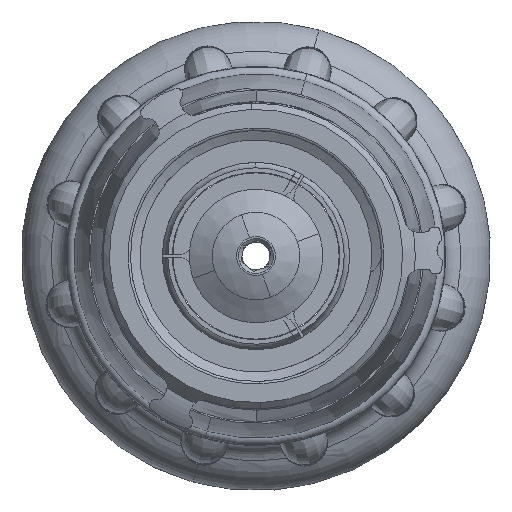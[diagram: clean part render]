
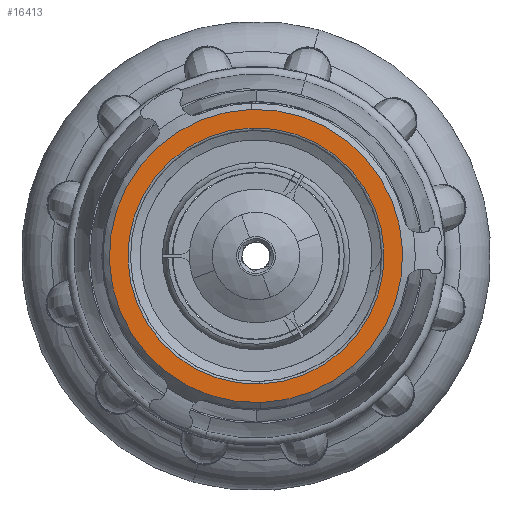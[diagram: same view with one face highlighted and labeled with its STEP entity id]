
A CAD part, left-side view. The second image highlights one B-rep face of the part: STEP entity #16413.
In plain terms, the highlighted planar face has unit normal (-1, 0, 0).
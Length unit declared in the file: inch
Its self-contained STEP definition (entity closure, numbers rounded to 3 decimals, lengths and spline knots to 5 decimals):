
#433 = CARTESIAN_POINT ( 'NONE',  ( -2.82858, -0.03728, 2.98571 ) ) ;
#574 = ORIENTED_EDGE ( 'NONE', *, *, #15111, .F. ) ;
#595 = CIRCLE ( 'NONE', #7601, 1.02565 ) ;
#1905 = DIRECTION ( 'NONE',  ( 1., 0., 0. ) ) ;
#2566 = CARTESIAN_POINT ( 'NONE',  ( -2.82858, -0.00547, 4.01087 ) ) ;
#2602 = EDGE_LOOP ( 'NONE', ( #25058, #19581 ) ) ;
#2611 = CARTESIAN_POINT ( 'NONE',  ( -2.82858, -0.03728, 2.98571 ) ) ;
#2845 = AXIS2_PLACEMENT_3D ( 'NONE', #433, #13487, #3089 ) ;
#3089 = DIRECTION ( 'NONE',  ( 0., 0.031, 1. ) ) ;
#3504 = FACE_OUTER_BOUND ( 'NONE', #2602, .T. ) ;
#4281 = DIRECTION ( 'NONE',  ( 0., 0.031, 1. ) ) ;
#5471 = EDGE_LOOP ( 'NONE', ( #26091, #574 ) ) ;
#6872 = VERTEX_POINT ( 'NONE', #23666 ) ;
#7601 = AXIS2_PLACEMENT_3D ( 'NONE', #20983, #24798, #16677 ) ;
#8394 = DIRECTION ( 'NONE',  ( 0., 0.031, 1. ) ) ;
#11191 = CARTESIAN_POINT ( 'NONE',  ( -2.82858, -0.00084, 4.16014 ) ) ;
#13487 = DIRECTION ( 'NONE',  ( -1., 0., 0. ) ) ;
#13908 = CIRCLE ( 'NONE', #2845, 1.175 ) ;
#15111 = EDGE_CURVE ( 'NONE', #6872, #19849, #32203, .T. ) ;
#15253 = EDGE_CURVE ( 'NONE', #15782, #25117, #13908, .T. ) ;
#15497 = CARTESIAN_POINT ( 'NONE',  ( -2.82858, 1.68689, 2.93222 ) ) ;
#15505 = CARTESIAN_POINT ( 'NONE',  ( -2.82858, -0.07371, 1.81127 ) ) ;
#15782 = VERTEX_POINT ( 'NONE', #11191 ) ;
#16035 = DIRECTION ( 'NONE',  ( -1., 0., 0. ) ) ;
#16413 = ADVANCED_FACE ( 'NONE', ( #18207, #3504 ), #26314, .F. ) ;
#16627 = AXIS2_PLACEMENT_3D ( 'NONE', #20343, #16035, #8394 ) ;
#16651 = EDGE_CURVE ( 'NONE', #25117, #15782, #27433, .T. ) ;
#16677 = DIRECTION ( 'NONE',  ( 0., 0.031, 1. ) ) ;
#18207 = FACE_BOUND ( 'NONE', #5471, .T. ) ;
#18979 = DIRECTION ( 'NONE',  ( -1., 0., 0. ) ) ;
#19264 = DIRECTION ( 'NONE',  ( 0., -0.031, -1. ) ) ;
#19581 = ORIENTED_EDGE ( 'NONE', *, *, #15253, .T. ) ;
#19849 = VERTEX_POINT ( 'NONE', #2566 ) ;
#20343 = CARTESIAN_POINT ( 'NONE',  ( -2.82858, -0.03728, 2.98571 ) ) ;
#20796 = AXIS2_PLACEMENT_3D ( 'NONE', #15497, #1905, #19264 ) ;
#20983 = CARTESIAN_POINT ( 'NONE',  ( -2.82858, -0.03728, 2.98571 ) ) ;
#21395 = AXIS2_PLACEMENT_3D ( 'NONE', #2611, #18979, #4281 ) ;
#23666 = CARTESIAN_POINT ( 'NONE',  ( -2.82858, -0.06908, 1.96055 ) ) ;
#24798 = DIRECTION ( 'NONE',  ( -1., 0., 0. ) ) ;
#25058 = ORIENTED_EDGE ( 'NONE', *, *, #16651, .T. ) ;
#25117 = VERTEX_POINT ( 'NONE', #15505 ) ;
#25156 = EDGE_CURVE ( 'NONE', #19849, #6872, #595, .T. ) ;
#26091 = ORIENTED_EDGE ( 'NONE', *, *, #25156, .F. ) ;
#26314 = PLANE ( 'NONE',  #20796 ) ;
#27433 = CIRCLE ( 'NONE', #21395, 1.175 ) ;
#32203 = CIRCLE ( 'NONE', #16627, 1.02565 ) ;
